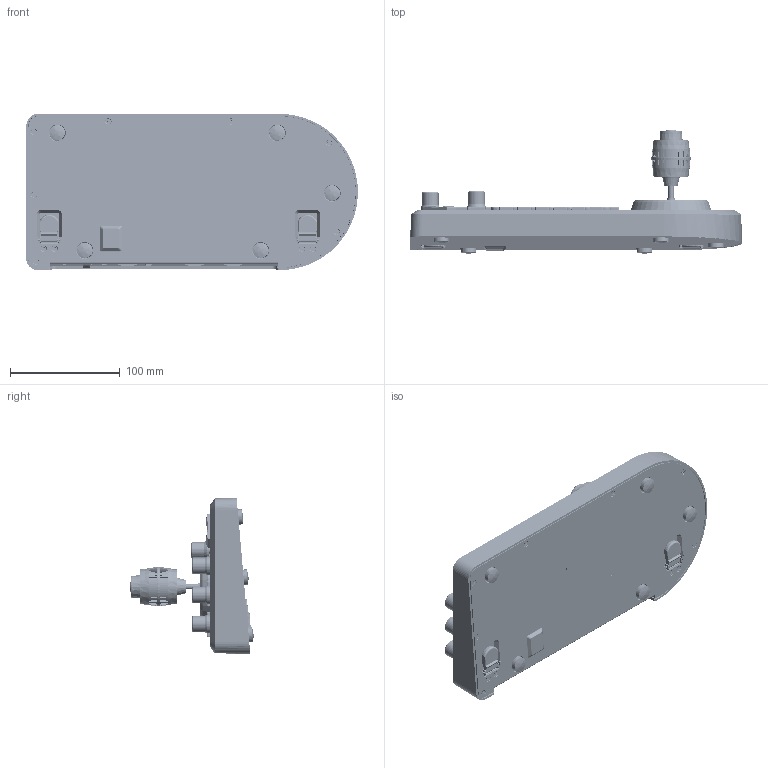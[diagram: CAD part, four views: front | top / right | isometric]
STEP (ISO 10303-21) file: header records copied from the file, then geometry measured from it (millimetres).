
FILE_DESCRIPTION (( 'STEP AP214' ), '1' );
FILE_NAME ('00-ASSY-BODY-VS-KB21.STEP', '2023-09-12T07:09:25', ( 'a' ), ( '' ), 'SwSTEP 2.0', 'SolidWorks 2020', '' );
FILE_SCHEMA (( 'AUTOMOTIVE_DESIGN' ));
Length unit declared in the file: millimetre
Products named in the file (94): 0_ZB_ASM_ASM^00-PCBA-IO-VS-KB21_ASM_00-pcba-io-vs-kb21-1205(2)_00-pcba-io-vs-kb21-1205; 40P_FPC_EASYON_2_2^40P_FPC_EASYON_ASM_3_ASM_0_KEYPAD_PCB1_ASM_38_ASM_0_SHELL_AS-FACE_ASM_158_ASM; 0_DP_1_1^00_KNOB_ASM_ASM_4_ASM; 00_KC20_KEYBOARD_ASM_136_ASM; 0_LM_1^00_KNOB_ASM_ASM; RUBBER-FOOT-PAD-KB21; 0_G^01_ASSY-ROCKER-VS-KB21; RJ45-LED00^00-pcba-io-vs-kb21-1205(2)_00-pcba-io-vs-kb21-1205; 36P_FPC_EASYON_2^36P_FPC_EASYON_ASM_ASM_0_KEYPAD_PCB1_ASM_38_ASM_0_SHELL_AS-FACE_ASM_158_ASM; 22X19X15_STP0001_1_1_9^15_S-637640001_ASM_ASM_3_ASM_0_KEYCAP_ASM_ASM_3_ASM; 00-kb21-assy_1213; 100_1_1; SPONGE-ML32-LED-BOTTOM-VS-KB21; FRD300H40107-A^01_ASSY-SCREEN-VS-KB21; 36P_FPC_EASYON_2^½Æ»s of 36P_FPC_EASYON_ASM_ASM_00-pcba-io-vs-kb21-1205; 0_KEYPAD_PCB1_53^0_KEYPAD_PCB1_ASM_38_ASM_0_SHELL_AS-FACE_ASM_158_ASM; 100_1_1_7^SK00_ASM_1_ASM_1_ASM_2_ASM; 複製 of 15_S-637640001_ASM_ASM_3_ASM^00_kc20_keyboard_asm; 0_LM_1^00_KNOB1_ASM_ASM; 4700233-50-Screw-M2.5x6-MS+FS; 0-zhijia20221130; 00-pcba-io-vs-kb21-1205; 0_KEYPAD_PCB1_ASM_38_ASM^0_SHELL_AS-FACE_ASM_158_ASM; 0_LM_1_1^00_KNOB1_ASM_ASM_6_ASM; PRESS-BOTTOM-VS-KB21_腳架A; 0_KNOB_ASM; 00-ASSY-BODY-VS-KB21; KG_0_ZB_ASM^0_ZB_ASM_ASM_00-PCBA-IO-VS-KB21_ASM_00-pcba-io-vs-kb21-1205(2)_00-pcba-io-vs-kb21-1205; 20P_FPC_EASYON_ASM_3_ASM^0_KEYPAD_PCB1_ASM_38_ASM_0_SHELL_AS-FACE_ASM_158_ASM; U0001_1_1_1^00_KNOB_ASM_ASM_4_ASM; 0_KNOB_ASM_28_ASM; SK00_ASM_1_ASM_1_ASM^00_KNOB_ASM_ASM; DIECASTING-FOOT-CRUTCH-VS-KB21; 0_DZ^01_ASSY-ROCKER-VS-KB21; 00-PCBA-IO-VS-KB21_ASM^00-pcba-io-vs-kb21-1205(2)_00-pcba-io-vs-kb21-1205; 40P_FPC_EASYON_ASM_3_ASM^0_KEYPAD_PCB1_ASM_38_ASM_0_SHELL_AS-FACE_ASM_158_ASM; 00_KNOB_ASM_ASM_4_ASM; 00_KC20_KEYBOARD_ASM_ASM; 0_DP_1^00_KNOB_ASM_ASM; MACH-PIN-2-VS-KB21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
Assembly tree (138 placements, depth 12):
  00-ASSY-BODY-VS-KB21
    00_kc20_keyboard_asm
      00_kc20_keyboard_asm(2)
        0_SHELL_AS-FACE_ASM
          0_KNOB_ASM
            00_KNOB_ASM_ASM  x3
              SK00_ASM_1_ASM_1_ASM^00_KNOB_ASM_ASM
                100_1_1^SK00_ASM_1_ASM_1_ASM_00_KNOB_ASM_ASM
              U0001_1_1^00_KNOB_ASM_ASM
              0_LM_1^00_KNOB_ASM_ASM
              0_DP_1^00_KNOB_ASM_ASM
            00_KNOB1_ASM_ASM
              SK00_ASM_1_ASM_1_ASM
                100_1_1
              U0001_1_1^00_KNOB1_ASM_ASM
              0_LM_1^00_KNOB1_ASM_ASM
              0_DP_1^00_KNOB1_ASM_ASM
      01_ASSY-ROCKER-VS-KB21
        0_DZ^01_ASSY-ROCKER-VS-KB21
        0_GJQ
        0_G^01_ASSY-ROCKER-VS-KB21
        0_YGT^01_ASSY-ROCKER-VS-KB21
      01_ASSY-SCREEN-VS-KB21
        FRD300H40107-A^01_ASSY-SCREEN-VS-KB21
      KB21_key20221129
      0-zhijia20221130
      00-pcba-io-vs-kb21-1205
        00-pcba-io-vs-kb21-1205(2)^00-pcba-io-vs-kb21-1205
          00-PCBA-IO-VS-KB21_ASM^00-pcba-io-vs-kb21-1205(2)_00-pcba-io-vs-kb21-1205
            0_ZB_ASM_ASM^00-PCBA-IO-VS-KB21_ASM_00-pcba-io-vs-kb21-1205(2)_00-pcba-io-vs-kb21-1205
              0_ZB_PCB(2)^0_ZB_ASM_ASM_00-PCBA-IO-VS-KB21_ASM_00-pcba-io-vs-kb21-1205(2)_00-pcba-io-vs-kb21-1205
              AV-12V_1_0_ZB_ASM^0_ZB_ASM_ASM_00-PCBA-IO-VS-KB21_ASM_00-pcba-io-vs-kb21-1205(2)_00-pcba-io-vs-kb21-1205
              KG_0_ZB_ASM^0_ZB_ASM_ASM_00-PCBA-IO-VS-KB21_ASM_00-pcba-io-vs-kb21-1205(2)_00-pcba-io-vs-kb21-1205
              USB2_0_LS_0_ZB_ASM^0_ZB_ASM_ASM_00-PCBA-IO-VS-KB21_ASM_00-pcba-io-vs-kb21-1205(2)_00-pcba-io-vs-kb21-1205
          RJ45-LED^00-pcba-io-vs-kb21-1205(2)_00-pcba-io-vs-kb21-1205
          RJ45-LED00^00-pcba-io-vs-kb21-1205(2)_00-pcba-io-vs-kb21-1205  x2
        複製 of 36P_FPC_EASYON_ASM_ASM^00-pcba-io-vs-kb21-1205
          36P_FPC_EASYON-1^½Æ»s of 36P_FPC_EASYON_ASM_ASM_00-pcba-io-vs-kb21-1205
          36P_FPC_EASYON_2^½Æ»s of 36P_FPC_EASYON_ASM_ASM_00-pcba-io-vs-kb21-1205
      00-kb21-assy_1213
        00-kb21-assy_1213(2)
          00_KC20_KEYBOARD_ASM_ASM
            00_KC20_KEYBOARD_ASM_136_ASM
              0_SHELL_AS-FACE_ASM_158_ASM
                0_KEYPAD_PCB1_ASM_38_ASM^0_SHELL_AS-FACE_ASM_158_ASM
                  20P_FPC_EASYON_ASM_3_ASM^0_KEYPAD_PCB1_ASM_38_ASM_0_SHELL_AS-FACE_ASM_158_ASM  x2
                  40P_FPC_EASYON_ASM_3_ASM^0_KEYPAD_PCB1_ASM_38_ASM_0_SHELL_AS-FACE_ASM_158_ASM
                  36P_FPC_EASYON_ASM_ASM^0_KEYPAD_PCB1_ASM_38_ASM_0_SHELL_AS-FACE_ASM_158_ASM
                  0_KEYPAD_PCB_127^0_KEYPAD_PCB1_ASM_38_ASM_0_SHELL_AS-FACE_ASM_158_ASM
                  0_KEYPAD_PCB1_53^0_KEYPAD_PCB1_ASM_38_ASM_0_SHELL_AS-FACE_ASM_158_ASM
                  0_FPC1_21^0_KEYPAD_PCB1_ASM_38_ASM_0_SHELL_AS-FACE_ASM_158_ASM
                  0_FPC2_12^0_KEYPAD_PCB1_ASM_38_ASM_0_SHELL_AS-FACE_ASM_158_ASM
                0_KNOB_ASM_28_ASM
                  00_KNOB_ASM_ASM_4_ASM  x3
                  00_KNOB1_ASM_ASM_6_ASM
      複製 of 15_S-637640001_ASM_ASM_3_ASM^00_kc20_keyboard_asm  x3
        10_STP0001_1_1_1^複製 of 15_S-637640001_ASM_ASM_3_ASM_00_kc20_keyboard_asm
        22X19X15_STP0001_1_1_9^複製 of 15_S-637640001_ASM_ASM_3_ASM_00_kc20_keyboard_asm
    DIECASTING-TOP-VS-KB21_C1
    PRESS-BOTTOM-VS-KB21_腳架A
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Bounding box: 301.99 x 111.95 x 142.13 mm (x, y, z)
Volume: 511757.5 mm3; surface area: 460300.6 mm2
Topology: 120 solids, 120 shells, 32243 faces, 90003 edges, 57216 vertices
Faces by surface type: plane 17853, cylinder 11342, cone 1472, bspline 715, torus 563, sphere 298
Entity records: 947868 total; most frequent: CARTESIAN_POINT 232998, ORIENTED_EDGE 152914, DIRECTION 143819, EDGE_CURVE 76457, VECTOR 52219, LINE 52219, VERTEX_POINT 48756, AXIS2_PLACEMENT_3D 45800
